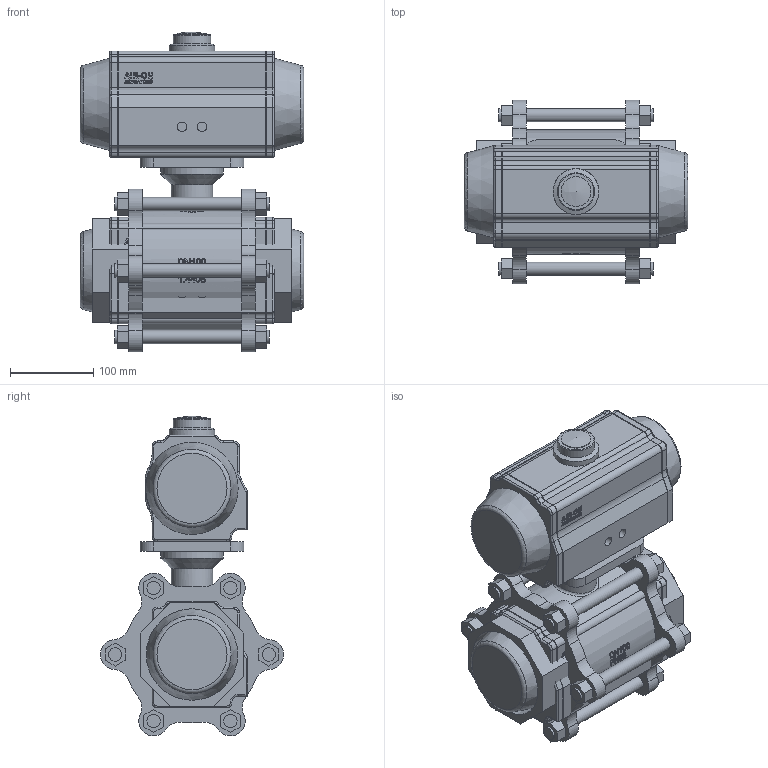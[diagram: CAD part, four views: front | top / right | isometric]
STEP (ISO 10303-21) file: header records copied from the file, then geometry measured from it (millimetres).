
FILE_DESCRIPTION( ( 'Unknown' ), '1' );
FILE_NAME( 'W:/ECCUA/ROOTSI BPS 3D vidinad/Kuulkraanid/Roostevaba kuulkraanid/Ball valve BPS 2420/Ball valve with pneumatic actuator BPS/STEP format/BPS 2420100P ball valve DN100.stp', 'Unknown', ( 'Unknown' ), ( 'Unknown' ), 'PSStep 10.1', 'Unknown', ' ' );
FILE_SCHEMA( ( 'AUTOMOTIVE_DESIGN { 1 0 10303 214 1 1 1 1 }' ) );
Length unit declared in the file: millimetre
Products named in the file (5): Assem1; BPS 2420100 ball valve DN100; BPS 8300100DA-SR pneumatic actuator
Bounding box: 269 x 220.75 x 384.99 mm (x, y, z)
Volume: 12026432.8 mm3; surface area: 1087445.2 mm2
Topology: 8 solids, 8 shells, 1318 faces, 3296 edges, 2160 vertices
Faces by surface type: plane 570, cylinder 368, extrusion 202, bspline 90, torus 62, cone 24, sphere 2
Full cylindrical faces by diameter (mm): 6.647 x8, 8.376 x8, 11.445 x4, 16 x36, 36 x2, 45 x2, 50 x2, 55 x2, 75 x2, 100 x2, 110.072 x4, 150 x2
Entity records: 32748 total; most frequent: CARTESIAN_POINT 12636, ORIENTED_EDGE 3100, DIRECTION 2650, EDGE_CURVE 1550, VERTEX_POINT 1057, AXIS2_PLACEMENT_3D 893, VECTOR 864, EDGE_LOOP 831
